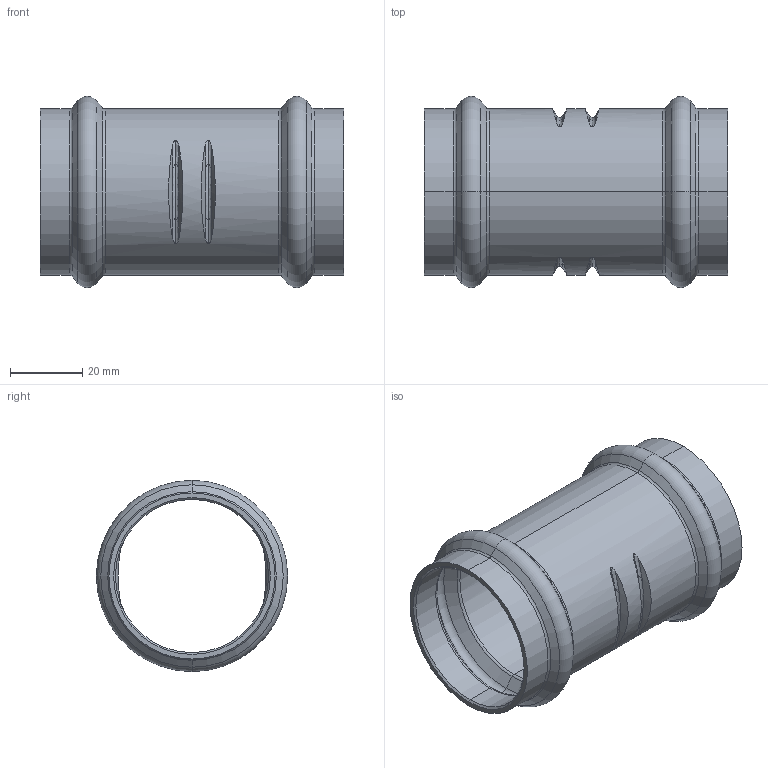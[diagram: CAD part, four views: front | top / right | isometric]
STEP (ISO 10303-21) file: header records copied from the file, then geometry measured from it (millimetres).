
FILE_DESCRIPTION (( 'STEP AP203' ), '1' );
FILE_NAME ('SP5270 42.STEP', '2017-04-24T09:19:20', ( '' ), ( '' ), 'SwSTEP 2.0', 'SolidWorks 2016', '' );
FILE_SCHEMA (( 'CONFIG_CONTROL_DESIGN' ));
Length unit declared in the file: millimetre
Products named in the file (1): SP5270 42
Bounding box: 84 x 52.96 x 52.96 mm (x, y, z)
Volume: 21112.4 mm3; surface area: 26255.3 mm2
Topology: 1 solids, 1 shells, 82 faces, 164 edges, 92 vertices
Faces by surface type: torus 40, cone 28, cylinder 12, plane 2
Entity records: 2761 total; most frequent: CARTESIAN_POINT 971, DIRECTION 398, ORIENTED_EDGE 328, AXIS2_PLACEMENT_3D 183, EDGE_CURVE 164, CIRCLE 100, VERTEX_POINT 92, EDGE_LOOP 92
